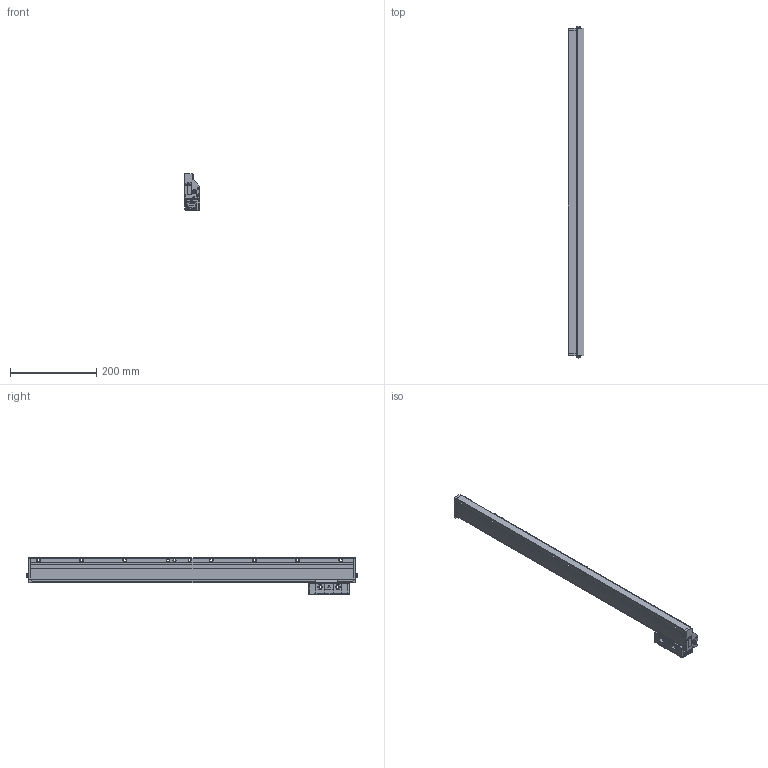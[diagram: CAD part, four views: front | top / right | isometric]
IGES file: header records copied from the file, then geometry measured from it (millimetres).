
Start section: Elysium IGES Interface
Global section: file name: 81HK:\20_商品設計\設計１課\個人\宮澤\郷間さん\AT1123\3D\NEW_ﾌｧｲﾙ\IGES\AT1123-640.igs; native system: Creo Elements/Direct Modeling 18.1B  29-Sep-2012; preprocessor: Creo Element/Direct IGES_3D V2.2; author: Unknown; organization: Unknown; date: 20181012.085722; units: millimetre
Bounding box: 37 x 768.44 x 85 mm (x, y, z)
Volume: 1237700.6 mm3; surface area: 185150.2 mm2
Topology: 2 solids, 2 shells, 2819 faces, 7442 edges, 4817 vertices
Faces by surface type: bspline 2819
